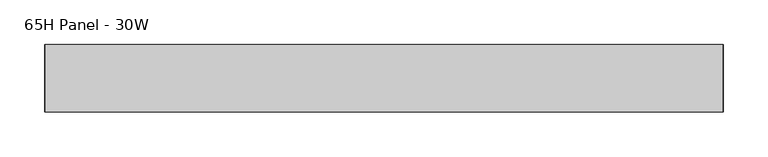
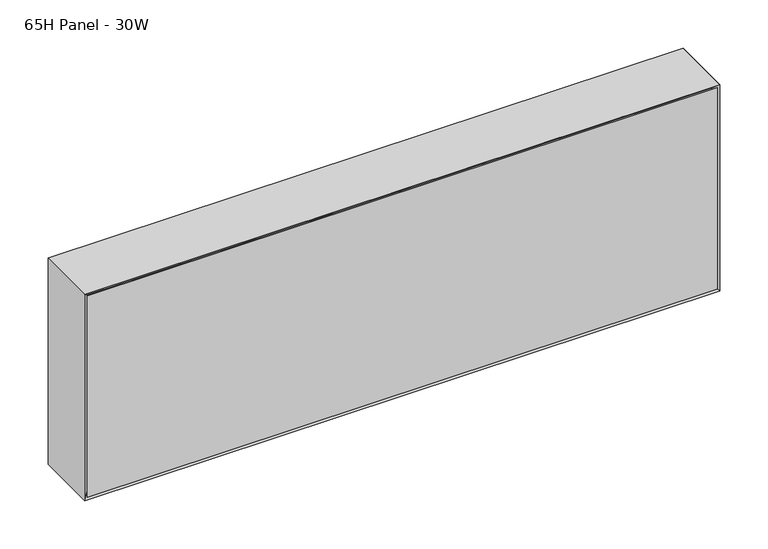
"""IFC4 building model written with IfcOpenShell, lengths in millimetres: furniture geometry, Steelcase - Montage - Frame - 10H - Enhanced Standard - Single Stack-On : 65H Panel - 30W."""

from ifc_helpers import new_model, si_unit, frame, origin, place, context, project, spatial, polyline, outline, extrude, faceted_brep, source, transform, mapped, element, save


def furniture_65h_panel_30w_3ad38705(model_context):
    return source(origin(), model_context, "Body", "SolidModel", [
        faceted_brep([(752.4750027, 31.7500194, 1912.9502415), (9.5250028, 31.7500194, 1912.9502415), (9.5250028, 31.7500194, 1670.05), (752.4750027, 31.7500194, 1670.05), (758.825, 38.1000194, 1919.3002415), (758.825, 38.1000194, 1663.7), (3.175, 38.1000194, 1663.7), (3.175, 38.1000194, 1919.3002415)], [[[0, 1, 2, 3]], [[4, 5, 6, 7]], [[4, 0, 3, 5]], [[5, 3, 2, 6]], [[6, 2, 1, 7]], [[7, 1, 0, 4]]]),
        faceted_brep([(752.4750027, -31.7500194, 1912.9502415), (752.4750027, -31.7500194, 1670.05), (9.5250028, -31.7500194, 1670.05), (9.5250028, -31.7500194, 1912.9502415), (758.825, -38.1000194, 1919.3002415), (3.175, -38.1000194, 1919.3002415), (3.175, -38.1000194, 1663.7), (758.825, -38.1000194, 1663.7)], [[[0, 1, 2, 3]], [[4, 5, 6, 7]], [[4, 7, 1, 0]], [[7, 6, 2, 1]], [[6, 5, 3, 2]], [[5, 4, 0, 3]]]),
        faceted_brep([(762.0, -38.1000015, 1660.525), (762.0, 38.1000015, 1660.525), (762.0, 38.1000015, 1922.4752415), (762.0, -38.1000106, 1922.4752414), (0.0, 38.1000015, 1660.525), (0.0, -38.1000015, 1660.525), (0.0, -38.1000015, 1922.4752415), (0.0, 38.1000015, 1922.4752415), (6.3500484, 31.749953, 1666.8750484), (755.6499879, 31.749953, 1666.8750484), (6.35, -31.749953, 1666.8750484), (755.6499879, -31.749953, 1666.8750484), (6.3500169, 31.7499846, 1916.1252245), (6.3500012, -31.7500003, 1916.125193), (755.6499879, -31.7499973, 1916.125193), (755.6499879, 31.7499885, 1916.1252293)], [[[0, 1, 2, 3]], [[4, 5, 6, 7]], [[1, 0, 5, 4]], [[1, 4, 8, 9]], [[9, 8, 10, 11]], [[5, 0, 11, 10]], [[4, 7, 12, 8]], [[6, 5, 10, 13]], [[10, 8, 12, 13]], [[9, 11, 14, 15]], [[0, 3, 14, 11]], [[2, 1, 9, 15]], [[3, 2, 15, 14]], [[7, 6, 13, 12]]]),
        faceted_brep([(762.0, -38.1000015, 1922.4752415), (0.0, -38.1000015, 1922.4752415), (6.3500484, -31.749953, 1916.125193), (755.6499516, -31.749953, 1916.125193), (6.3500484, 31.749953, 1916.125193), (755.6499516, 31.749953, 1916.125193), (0.0, 38.1000015, 1922.4752415), (762.0, 38.1000015, 1922.4752415)], [[[0, 1, 2, 3]], [[3, 2, 4, 5]], [[6, 7, 5, 4]], [[1, 0, 7, 6]], [[2, 1, 6, 4]], [[0, 3, 5, 7]]]),
        extrude(outline(polyline([(755.6499879, 31.7500016), (755.6499879, -31.7499985), (6.35, -31.7499985), (6.35, 31.7500016), (755.6499879, 31.7500016)])), frame((0.0, 0.0, 1666.8702145), z_axis=(0.0, 0.0, 1.0), x_axis=(1.0, 0.0, 0.0)), (0.0, 0.0, 1.0), 249.2549785),
    ])


if __name__ == "__main__":
    model = new_model("IFC4")
    model_context = context("Model", 3, world=origin())
    ifc_project = project(units=[si_unit("LENGTHUNIT", "METRE", prefix="MILLI")], contexts=[model_context])
    site = spatial("IfcSite", under=ifc_project)
    building = spatial("IfcBuilding", under=site)
    placement = place(None, origin())
    furniture_65h_panel_30w_shape = furniture_65h_panel_30w_3ad38705(model_context)
    element("IfcFurniture", 1, ObjectType="Steelcase - Montage - Frame - 10H - Enhanced Standard - Single Stack-On : 65H Panel - 30W", at=placement, inside=building, context=model_context, shape_type="MappedRepresentation", body=[
        mapped(furniture_65h_panel_30w_shape, transform((0.0, 0.0, 0.0), x_axis=(1.0, 0.0, 0.0), y_axis=(0.0, 1.0, 0.0), z_axis=(0.0, 0.0, 1.0))),
    ])
    save(model, "model.ifc")
